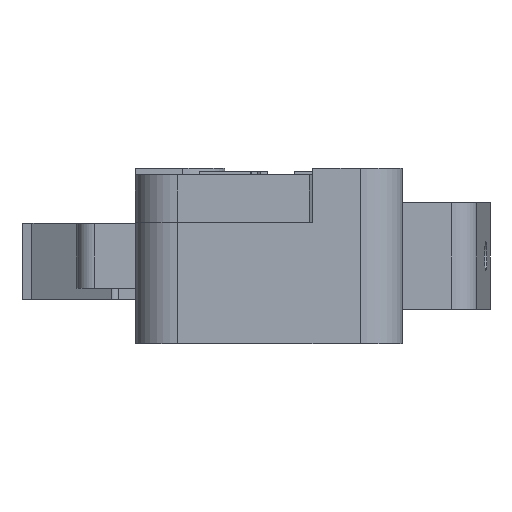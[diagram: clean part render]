
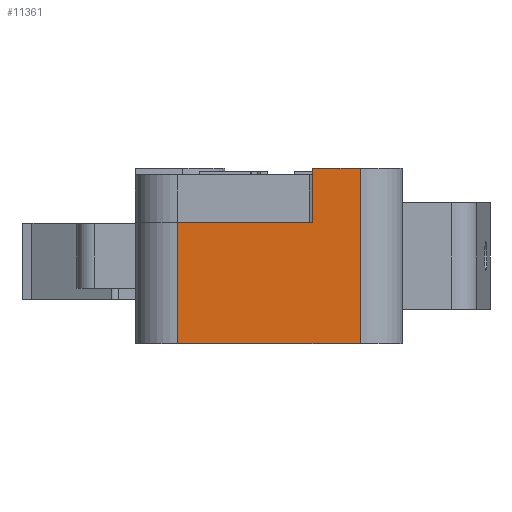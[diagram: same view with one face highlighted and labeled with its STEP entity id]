
A CAD part, left-side view. The second image highlights one B-rep face of the part: STEP entity #11361.
In plain terms, the highlighted planar face has unit normal (-1, 0, 0).
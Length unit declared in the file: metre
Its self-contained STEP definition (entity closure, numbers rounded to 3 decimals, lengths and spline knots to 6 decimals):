
#11021=CARTESIAN_POINT('',(-0.027238,-0.006323,0.022913));
#11022=VERTEX_POINT('',#11021);
#11025=CARTESIAN_POINT('',(-0.027238,-0.006323,0.030113));
#11026=DIRECTION('',(0.,0.,-1.));
#11027=VECTOR('',#11026,1.);
#11028=LINE('',#11025,#11027);
#11029=CARTESIAN_POINT('',(-0.027238,-0.006323,0.030113));
#11030=VERTEX_POINT('',#11029);
#11031=EDGE_CURVE('',#11030,#11022,#11028,.T.);
#11229=CARTESIAN_POINT('',(-0.027238,-0.017123,0.033313));
#11230=VERTEX_POINT('',#11229);
#11264=CARTESIAN_POINT('',(-0.027238,-0.014323,0.033313));
#11265=VERTEX_POINT('',#11264);
#11268=CARTESIAN_POINT('',(-0.027238,-0.014323,0.033313));
#11269=DIRECTION('',(0.,-1.,0.));
#11270=VECTOR('',#11269,1.);
#11271=LINE('',#11268,#11270);
#11272=EDGE_CURVE('',#11265,#11230,#11271,.T.);
#11301=CARTESIAN_POINT('',(-0.027238,-0.017123,0.022913));
#11302=VERTEX_POINT('',#11301);
#11314=CARTESIAN_POINT('',(-0.027238,-0.017123,0.033313));
#11315=DIRECTION('',(0.,0.,-1.));
#11316=VECTOR('',#11315,1.);
#11317=LINE('',#11314,#11316);
#11318=EDGE_CURVE('',#11230,#11302,#11317,.T.);
#11331=CARTESIAN_POINT('',(-0.027238,-0.014323,0.033313));
#11332=DIRECTION('',(1.,0.,0.));
#11333=DIRECTION('',(0.,1.,0.));
#11334=AXIS2_PLACEMENT_3D('',#11331,#11332,#11333);
#11335=PLANE('',#11334);
#11336=CARTESIAN_POINT('',(-0.027238,-0.014323,0.022913));
#11337=DIRECTION('',(0.,-1.,0.));
#11338=VECTOR('',#11337,1.);
#11339=LINE('',#11336,#11338);
#11340=EDGE_CURVE('',#11022,#11302,#11339,.T.);
#11341=ORIENTED_EDGE('',*,*,#11340,.T.);
#11342=ORIENTED_EDGE('',*,*,#11318,.F.);
#11343=ORIENTED_EDGE('',*,*,#11272,.F.);
#11344=CARTESIAN_POINT('',(-0.027238,-0.014323,0.033313));
#11345=DIRECTION('',(0.,0.,-1.));
#11346=VECTOR('',#11345,1.);
#11347=LINE('',#11344,#11346);
#11348=CARTESIAN_POINT('',(-0.027238,-0.014323,0.030113));
#11349=VERTEX_POINT('',#11348);
#11350=EDGE_CURVE('',#11265,#11349,#11347,.T.);
#11351=ORIENTED_EDGE('',*,*,#11350,.T.);
#11352=CARTESIAN_POINT('',(-0.027238,-0.011723,0.030113));
#11353=DIRECTION('',(0.,-1.,0.));
#11354=VECTOR('',#11353,1.);
#11355=LINE('',#11352,#11354);
#11356=EDGE_CURVE('',#11030,#11349,#11355,.T.);
#11357=ORIENTED_EDGE('',*,*,#11356,.F.);
#11358=ORIENTED_EDGE('',*,*,#11031,.T.);
#11359=EDGE_LOOP('',(#11341,#11342,#11343,#11351,#11357,#11358));
#11360=FACE_BOUND('',#11359,.T.);
#11361=ADVANCED_FACE('',(#11360),#11335,.F.);
